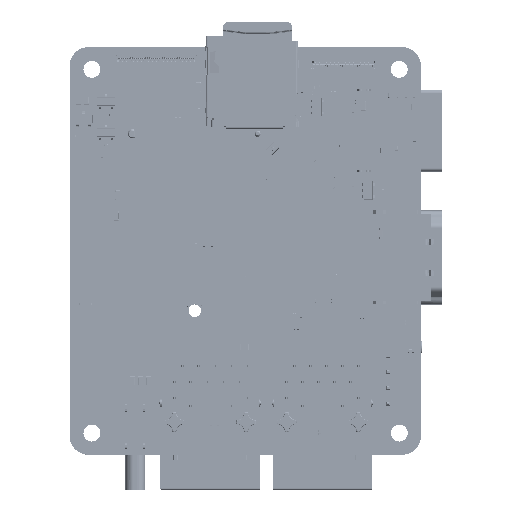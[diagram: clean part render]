
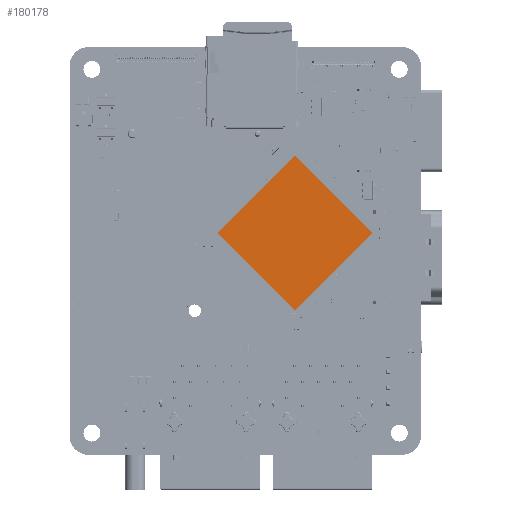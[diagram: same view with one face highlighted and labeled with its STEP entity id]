
A CAD part, top view. The second image highlights one B-rep face of the part: STEP entity #180178.
In plain terms, the highlighted planar face has unit normal (0, 0, 1).
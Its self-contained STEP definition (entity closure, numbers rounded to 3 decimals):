
#180063=DIRECTION('',(0.707,-0.707,0.));
#180064=VECTOR('',#180063,17.5);
#180065=CARTESIAN_POINT('',(-10.873,0.,-2.9));
#180066=LINE('',#180065,#180064);
#180067=DIRECTION('',(-0.707,-0.707,0.));
#180068=VECTOR('',#180067,17.5);
#180069=CARTESIAN_POINT('',(1.501,12.374,-2.9));
#180070=LINE('',#180069,#180068);
#180071=DIRECTION('',(-0.707,0.707,0.));
#180072=VECTOR('',#180071,17.5);
#180073=CARTESIAN_POINT('',(13.875,0.,-2.9));
#180074=LINE('',#180073,#180072);
#180075=DIRECTION('',(0.707,0.707,0.));
#180076=VECTOR('',#180075,17.5);
#180077=CARTESIAN_POINT('',(1.501,-12.375,-2.9));
#180078=LINE('',#180077,#180076);
#180087=CARTESIAN_POINT('',(-10.873,0.,-2.9));
#180088=CARTESIAN_POINT('',(1.501,-12.375,-2.9));
#180089=VERTEX_POINT('',#180087);
#180090=VERTEX_POINT('',#180088);
#180091=CARTESIAN_POINT('',(13.875,0.,-2.9));
#180092=VERTEX_POINT('',#180091);
#180093=CARTESIAN_POINT('',(1.501,12.374,-2.9));
#180094=VERTEX_POINT('',#180093);
#180167=CARTESIAN_POINT('',(1.501,0.,-2.9));
#180168=DIRECTION('',(0.,0.,1.));
#180169=DIRECTION('',(-0.707,-0.707,0.));
#180170=AXIS2_PLACEMENT_3D('',#180167,#180168,#180169);
#180171=PLANE('',#180170);
#180172=ORIENTED_EDGE('',*,*,#180119,.F.);
#180173=ORIENTED_EDGE('',*,*,#180134,.F.);
#180174=ORIENTED_EDGE('',*,*,#180148,.F.);
#180175=ORIENTED_EDGE('',*,*,#180161,.F.);
#180176=EDGE_LOOP('',(#180172,#180173,#180174,#180175));
#180177=FACE_OUTER_BOUND('',#180176,.F.);
#180119=EDGE_CURVE('',#180089,#180090,#180066,.T.);
#180134=EDGE_CURVE('',#180094,#180089,#180070,.T.);
#180148=EDGE_CURVE('',#180092,#180094,#180074,.T.);
#180161=EDGE_CURVE('',#180090,#180092,#180078,.T.);
#180178=ADVANCED_FACE('',(#180177),#180171,.T.);
